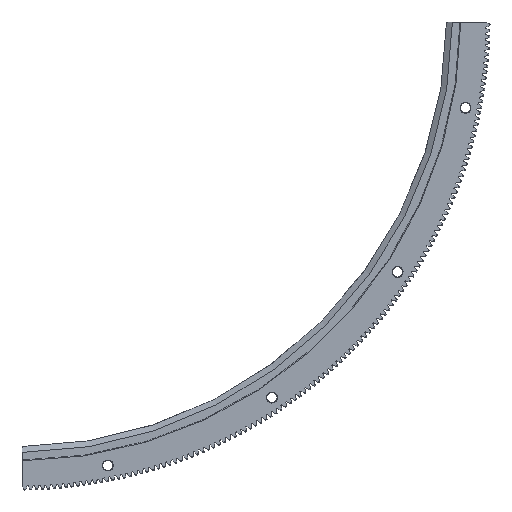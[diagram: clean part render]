
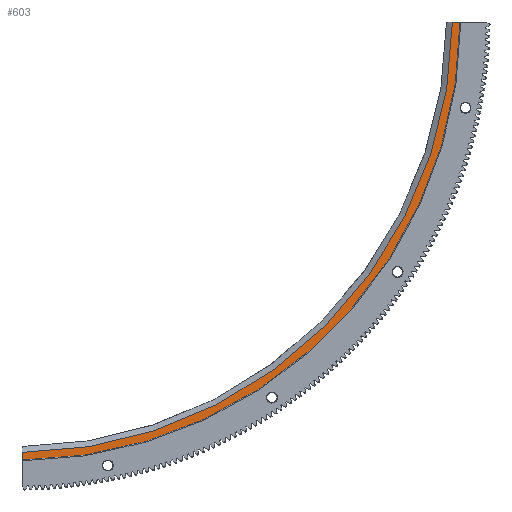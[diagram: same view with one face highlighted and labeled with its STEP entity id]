
A CAD part, front view. The second image highlights one B-rep face of the part: STEP entity #603.
In plain terms, the highlighted planar face has unit normal (0, -1, 0).
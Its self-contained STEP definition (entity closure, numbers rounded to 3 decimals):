
#603 = ADVANCED_FACE( '', ( #1928 ), #1929, .T. );
#1928 = FACE_OUTER_BOUND( '', #3496, .T. );
#1929 = PLANE( '', #3497 );
#3496 = EDGE_LOOP( '', ( #9156, #9157, #9158, #9159 ) );
#3497 = AXIS2_PLACEMENT_3D( '', #9160, #9161, #9162 );
#9156 = ORIENTED_EDGE( '', *, *, #13025, .T. );
#9157 = ORIENTED_EDGE( '', *, *, #12163, .T. );
#9158 = ORIENTED_EDGE( '', *, *, #10883, .F. );
#9159 = ORIENTED_EDGE( '', *, *, #10878, .T. );
#9160 = CARTESIAN_POINT( '', ( 0., 9.5, -288.664 ) );
#9161 = DIRECTION( '', ( 0., -1., 0. ) );
#9162 = DIRECTION( '', ( 0., 0., -1. ) );
#10878 = EDGE_CURVE( '', #13174, #13172, #13175, .T. );
#10883 = EDGE_CURVE( '', #13174, #13183, #13184, .T. );
#12163 = EDGE_CURVE( '', #15729, #13183, #15730, .T. );
#13025 = EDGE_CURVE( '', #13172, #15729, #16835, .T. );
#13172 = VERTEX_POINT( '', #16999 );
#13174 = VERTEX_POINT( '', #17002 );
#13175 = LINE( '', #17003, #17004 );
#13183 = VERTEX_POINT( '', #17028 );
#13184 = CIRCLE( '', #17029, 288.664 );
#15729 = VERTEX_POINT( '', #20599 );
#15730 = LINE( '', #20600, #20601 );
#16835 = CIRCLE( '', #23050, 294.35 );
#16999 = CARTESIAN_POINT( '', ( 2., 9.5, -294.343 ) );
#17002 = CARTESIAN_POINT( '', ( 2., 9.5, -288.658 ) );
#17003 = CARTESIAN_POINT( '', ( 2., 9.5, -288.664 ) );
#17004 = VECTOR( '', #23183, 1000. );
#17028 = CARTESIAN_POINT( '', ( 288.658, 9.5, -2. ) );
#17029 = AXIS2_PLACEMENT_3D( '', #23185, #23186, #23187 );
#20599 = CARTESIAN_POINT( '', ( 294.343, 9.5, -2. ) );
#20600 = CARTESIAN_POINT( '', ( 0., 9.5, -2. ) );
#20601 = VECTOR( '', #25011, 1000. );
#23050 = AXIS2_PLACEMENT_3D( '', #25636, #25637, #25638 );
#23183 = DIRECTION( '', ( 0., 0., -1. ) );
#23185 = CARTESIAN_POINT( '', ( 0., 9.5, 0. ) );
#23186 = DIRECTION( '', ( 0., -1., 0. ) );
#23187 = DIRECTION( '', ( 0., 0., -1. ) );
#25011 = DIRECTION( '', ( -1., 0., 0. ) );
#25636 = CARTESIAN_POINT( '', ( 0., 9.5, 0. ) );
#25637 = DIRECTION( '', ( 0., -1., 0. ) );
#25638 = DIRECTION( '', ( 0., 0., -1. ) );
